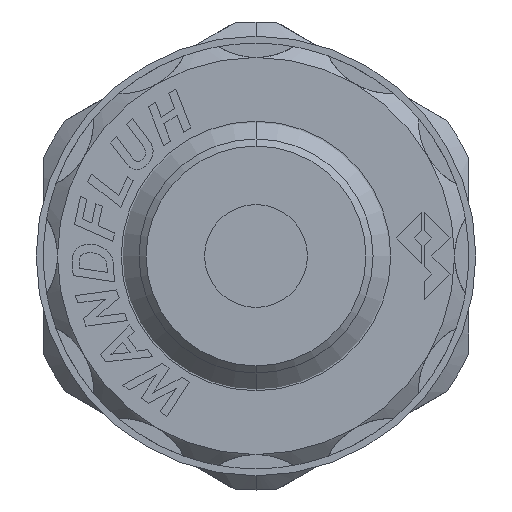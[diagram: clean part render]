
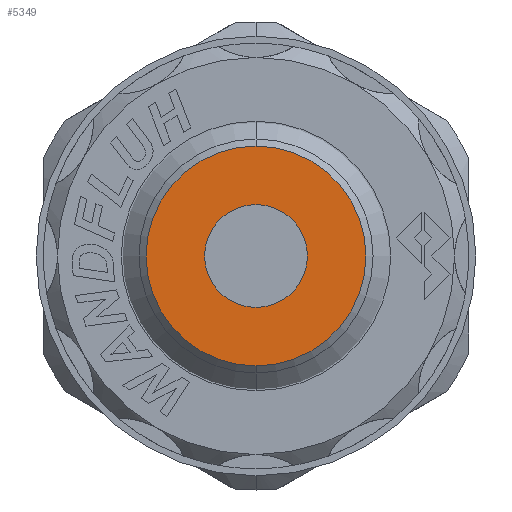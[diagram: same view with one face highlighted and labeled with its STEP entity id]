
A CAD part, left-side view. The second image highlights one B-rep face of the part: STEP entity #5349.
In plain terms, the highlighted planar face has unit normal (-1, 0, 0).
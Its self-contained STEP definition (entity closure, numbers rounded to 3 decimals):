
#39 = CARTESIAN_POINT ( 'NONE',  ( -70.9, 0., -7.75 ) ) ;
#44 = CARTESIAN_POINT ( 'NONE',  ( -70.9, 0., 3.625 ) ) ;
#77 = CARTESIAN_POINT ( 'NONE',  ( -70.9, 0., 7.75 ) ) ;
#278 = CARTESIAN_POINT ( 'NONE',  ( -70.9, 0., -3.625 ) ) ;
#3348 = EDGE_CURVE ( 'NONE', #12221, #11969, #13776, .T. ) ;
#3354 = EDGE_CURVE ( 'NONE', #11866, #11968, #13436, .T. ) ;
#4575 = ORIENTED_EDGE ( 'NONE', *, *, #16505, .T. ) ;
#4577 = ORIENTED_EDGE ( 'NONE', *, *, #3354, .F. ) ;
#4612 = ORIENTED_EDGE ( 'NONE', *, *, #16431, .F. ) ;
#4686 = EDGE_LOOP ( 'NONE', ( #4939, #4575 ) ) ;
#4822 = EDGE_LOOP ( 'NONE', ( #4577, #4612 ) ) ;
#4939 = ORIENTED_EDGE ( 'NONE', *, *, #3348, .T. ) ;
#5267 = DIRECTION ( 'NONE',  ( 0., 0., -1. ) ) ;
#5268 = DIRECTION ( 'NONE',  ( -1., 0., 0. ) ) ;
#5269 = CARTESIAN_POINT ( 'NONE',  ( -70.9, -3.625, 0. ) ) ;
#5283 = PLANE ( 'NONE',  #16673 ) ;
#5349 = ADVANCED_FACE ( 'NONE', ( #13693, #13520 ), #5283, .T. ) ;
#6935 = CARTESIAN_POINT ( 'NONE',  ( -70.9, 0., 0. ) ) ;
#6936 = DIRECTION ( 'NONE',  ( -1., 0., 0. ) ) ;
#6937 = DIRECTION ( 'NONE',  ( 0., 0., -1. ) ) ;
#7198 = CARTESIAN_POINT ( 'NONE',  ( -70.9, 0., 0. ) ) ;
#7199 = DIRECTION ( 'NONE',  ( -1., 0., 0. ) ) ;
#7200 = DIRECTION ( 'NONE',  ( 0., 0., -1. ) ) ;
#8370 = AXIS2_PLACEMENT_3D ( 'NONE', #6935, #6936, #6937 ) ;
#8450 = AXIS2_PLACEMENT_3D ( 'NONE', #7198, #7199, #7200 ) ;
#10321 = CIRCLE ( 'NONE', #8370, 3.625 ) ;
#10444 = CIRCLE ( 'NONE', #8450, 7.75 ) ;
#11866 = VERTEX_POINT ( 'NONE', #278 ) ;
#11968 = VERTEX_POINT ( 'NONE', #44 ) ;
#11969 = VERTEX_POINT ( 'NONE', #39 ) ;
#12221 = VERTEX_POINT ( 'NONE', #77 ) ;
#13436 = CIRCLE ( 'NONE', #17238, 3.625 ) ;
#13520 = FACE_BOUND ( 'NONE', #4822, .T. ) ;
#13693 = FACE_OUTER_BOUND ( 'NONE', #4686, .T. ) ;
#13776 = CIRCLE ( 'NONE', #17259, 7.75 ) ;
#16431 = EDGE_CURVE ( 'NONE', #11968, #11866, #10321, .T. ) ;
#16505 = EDGE_CURVE ( 'NONE', #11969, #12221, #10444, .T. ) ;
#16673 = AXIS2_PLACEMENT_3D ( 'NONE', #5269, #5268, #5267 ) ;
#17238 = AXIS2_PLACEMENT_3D ( 'NONE', #17637, #17633, #17630 ) ;
#17259 = AXIS2_PLACEMENT_3D ( 'NONE', #17703, #17702, #17700 ) ;
#17630 = DIRECTION ( 'NONE',  ( 0., 0., -1. ) ) ;
#17633 = DIRECTION ( 'NONE',  ( -1., 0., 0. ) ) ;
#17637 = CARTESIAN_POINT ( 'NONE',  ( -70.9, 0., 0. ) ) ;
#17700 = DIRECTION ( 'NONE',  ( 0., 0., -1. ) ) ;
#17702 = DIRECTION ( 'NONE',  ( -1., 0., 0. ) ) ;
#17703 = CARTESIAN_POINT ( 'NONE',  ( -70.9, 0., 0. ) ) ;
